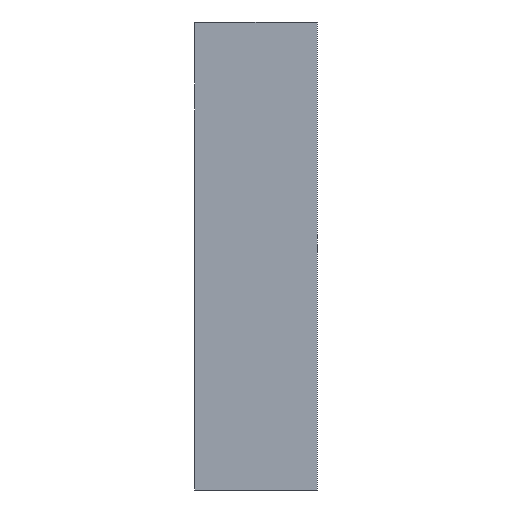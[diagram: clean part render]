
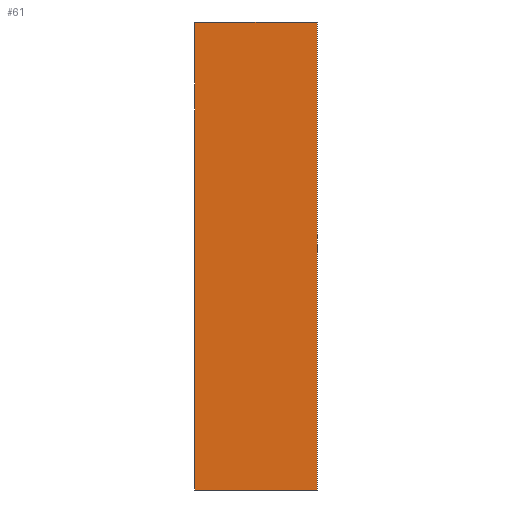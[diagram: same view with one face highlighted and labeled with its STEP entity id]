
A CAD part, front view. The second image highlights one B-rep face of the part: STEP entity #61.
In plain terms, the highlighted planar face has unit normal (0, -1, 0).
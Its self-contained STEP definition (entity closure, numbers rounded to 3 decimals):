
#61=ADVANCED_FACE('',(#93),#1153,.T.);
#93=FACE_OUTER_BOUND('',#129,.T.);
#129=EDGE_LOOP('',(#243,#244,#245,#246));
#243=ORIENTED_EDGE('',*,*,#837,.T.);
#244=ORIENTED_EDGE('',*,*,#835,.F.);
#245=ORIENTED_EDGE('',*,*,#838,.T.);
#246=ORIENTED_EDGE('',*,*,#830,.F.);
#452=PCURVE('',#1151,#620);
#457=PCURVE('',#1152,#625);
#459=PCURVE('',#1153,#627);
#460=PCURVE('',#1153,#628);
#461=PCURVE('',#1153,#629);
#462=PCURVE('',#1153,#630);
#463=PCURVE('',#1154,#631);
#497=PCURVE('',#1158,#665);
#620=DEFINITIONAL_REPRESENTATION('',(#980),#2126);
#625=DEFINITIONAL_REPRESENTATION('',(#990),#2126);
#627=DEFINITIONAL_REPRESENTATION('',(#994),#2126);
#628=DEFINITIONAL_REPRESENTATION('',(#995),#2126);
#629=DEFINITIONAL_REPRESENTATION('',(#997),#2126);
#630=DEFINITIONAL_REPRESENTATION('',(#998),#2126);
#631=DEFINITIONAL_REPRESENTATION('',(#999),#2126);
#665=DEFINITIONAL_REPRESENTATION('',(#1037),#2126);
#746=SURFACE_CURVE('',#979,(#452,#462),.PCURVE_S1.);
#751=SURFACE_CURVE('',#989,(#457,#460),.PCURVE_S1.);
#753=SURFACE_CURVE('',#993,(#459,#497),.PCURVE_S1.);
#754=SURFACE_CURVE('',#996,(#461,#463),.PCURVE_S1.);
#830=EDGE_CURVE('',#1100,#1099,#746,.T.);
#835=EDGE_CURVE('',#1109,#1110,#751,.T.);
#837=EDGE_CURVE('',#1100,#1110,#753,.T.);
#838=EDGE_CURVE('',#1109,#1099,#754,.T.);
#979=B_SPLINE_CURVE_WITH_KNOTS('',1,(#1791,#1792),.UNSPECIFIED.,.F.,.F.,
(2,2),(54.,60.),.UNSPECIFIED.);
#980=B_SPLINE_CURVE_WITH_KNOTS('',1,(#1793,#1794),.UNSPECIFIED.,.F.,.F.,
(2,2),(54.,60.),.UNSPECIFIED.);
#989=B_SPLINE_CURVE_WITH_KNOTS('',1,(#1811,#1812),.UNSPECIFIED.,.F.,.F.,
(2,2),(-20.,-14.),.UNSPECIFIED.);
#990=B_SPLINE_CURVE_WITH_KNOTS('',1,(#1813,#1814),.UNSPECIFIED.,.F.,.F.,
(2,2),(-20.,-14.),.UNSPECIFIED.);
#993=B_SPLINE_CURVE_WITH_KNOTS('',1,(#1819,#1820),.UNSPECIFIED.,.F.,.F.,
(2,2),(0.,23.),.UNSPECIFIED.);
#994=B_SPLINE_CURVE_WITH_KNOTS('',1,(#1821,#1822),.UNSPECIFIED.,.F.,.F.,
(2,2),(0.,23.),.UNSPECIFIED.);
#995=B_SPLINE_CURVE_WITH_KNOTS('',1,(#1823,#1824),.UNSPECIFIED.,.F.,.F.,
(2,2),(-20.,-14.),.UNSPECIFIED.);
#996=B_SPLINE_CURVE_WITH_KNOTS('',1,(#1825,#1826),.UNSPECIFIED.,.F.,.F.,
(2,2),(-23.,0.),.UNSPECIFIED.);
#997=B_SPLINE_CURVE_WITH_KNOTS('',1,(#1827,#1828),.UNSPECIFIED.,.F.,.F.,
(2,2),(-23.,0.),.UNSPECIFIED.);
#998=B_SPLINE_CURVE_WITH_KNOTS('',1,(#1829,#1830),.UNSPECIFIED.,.F.,.F.,
(2,2),(54.,60.),.UNSPECIFIED.);
#999=B_SPLINE_CURVE_WITH_KNOTS('',1,(#1831,#1832),.UNSPECIFIED.,.F.,.F.,
(2,2),(-23.,0.),.UNSPECIFIED.);
#1037=B_SPLINE_CURVE_WITH_KNOTS('',1,(#2041,#2042),.UNSPECIFIED.,.F.,.F.,
(2,2),(0.,23.),.UNSPECIFIED.);
#1099=VERTEX_POINT('',#1743);
#1100=VERTEX_POINT('',#1744);
#1109=VERTEX_POINT('',#1753);
#1110=VERTEX_POINT('',#1754);
#1151=PLANE('',#1187);
#1152=PLANE('',#1188);
#1153=PLANE('',#1189);
#1154=PLANE('',#1190);
#1158=PLANE('',#1194);
#1187=AXIS2_PLACEMENT_3D('',#1671,#1206,$);
#1188=AXIS2_PLACEMENT_3D('',#1672,#1207,$);
#1189=AXIS2_PLACEMENT_3D('',#1673,#1208,$);
#1190=AXIS2_PLACEMENT_3D('',#1674,#1209,$);
#1194=AXIS2_PLACEMENT_3D('',#1678,#1213,$);
#1206=DIRECTION('',(0.,0.,-1.));
#1207=DIRECTION('',(0.,0.,1.));
#1208=DIRECTION('',(0.,-1.,0.));
#1209=DIRECTION('',(-1.,0.,0.));
#1213=DIRECTION('',(1.,0.,0.));
#1671=CARTESIAN_POINT('',(761.06,28.24,-10.5));
#1672=CARTESIAN_POINT('',(761.06,28.24,12.5));
#1673=CARTESIAN_POINT('',(761.,14.1,-10.5));
#1674=CARTESIAN_POINT('',(755.,14.1,-10.5));
#1678=CARTESIAN_POINT('',(761.,28.1,-10.5));
#1743=CARTESIAN_POINT('',(755.,14.1,-10.5));
#1744=CARTESIAN_POINT('',(761.,14.1,-10.5));
#1753=CARTESIAN_POINT('',(755.,14.1,12.5));
#1754=CARTESIAN_POINT('',(761.,14.1,12.5));
#1791=CARTESIAN_POINT('',(761.,14.1,-10.5));
#1792=CARTESIAN_POINT('',(755.,14.1,-10.5));
#1793=CARTESIAN_POINT('',(0.,-6.));
#1794=CARTESIAN_POINT('',(0.,0.));
#1811=CARTESIAN_POINT('',(755.,14.1,12.5));
#1812=CARTESIAN_POINT('',(761.,14.1,12.5));
#1813=CARTESIAN_POINT('',(6.,7.6));
#1814=CARTESIAN_POINT('',(0.,7.6));
#1819=CARTESIAN_POINT('',(761.,14.1,-10.5));
#1820=CARTESIAN_POINT('',(761.,14.1,12.5));
#1821=CARTESIAN_POINT('',(0.,14.));
#1822=CARTESIAN_POINT('',(23.,14.));
#1823=CARTESIAN_POINT('',(23.,20.));
#1824=CARTESIAN_POINT('',(23.,14.));
#1825=CARTESIAN_POINT('',(755.,14.1,12.5));
#1826=CARTESIAN_POINT('',(755.,14.1,-10.5));
#1827=CARTESIAN_POINT('',(23.,20.));
#1828=CARTESIAN_POINT('',(0.,20.));
#1829=CARTESIAN_POINT('',(0.,14.));
#1830=CARTESIAN_POINT('',(0.,20.));
#1831=CARTESIAN_POINT('',(23.,20.));
#1832=CARTESIAN_POINT('',(0.,20.));
#2041=CARTESIAN_POINT('',(0.,14.));
#2042=CARTESIAN_POINT('',(23.,14.));
#2126=(
GEOMETRIC_REPRESENTATION_CONTEXT(2)
PARAMETRIC_REPRESENTATION_CONTEXT()
REPRESENTATION_CONTEXT('pspace','')
);
